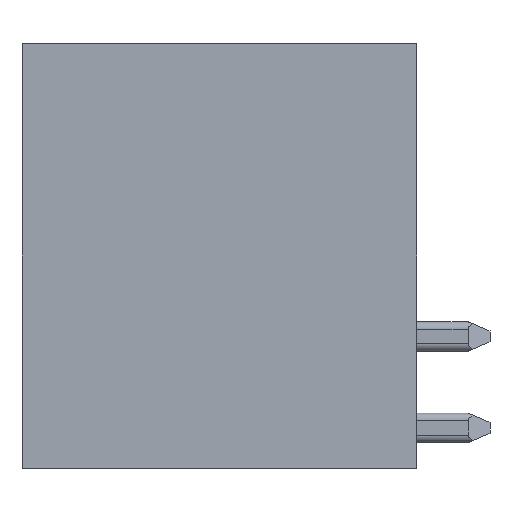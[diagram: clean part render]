
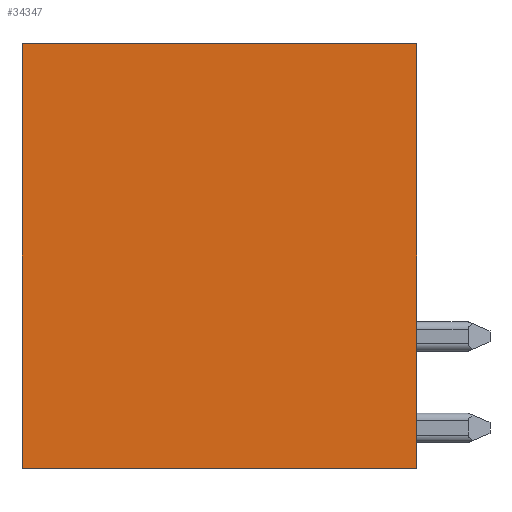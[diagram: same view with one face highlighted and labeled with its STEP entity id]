
A CAD part, left-side view. The second image highlights one B-rep face of the part: STEP entity #34347.
In plain terms, the highlighted planar face has unit normal (-1, 0, 0).
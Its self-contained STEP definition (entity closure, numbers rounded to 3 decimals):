
#3299=DIRECTION('',(0.,0.,1.));
#3300=VECTOR('',#3299,11.6);
#3301=CARTESIAN_POINT('',(17.1,10.8,-4.35));
#3302=LINE('',#3301,#3300);
#12826=DIRECTION('',(0.,1.,0.));
#12827=VECTOR('',#12826,10.8);
#12828=CARTESIAN_POINT('',(17.1,0.,7.25));
#12829=LINE('',#12828,#12827);
#12830=DIRECTION('',(0.,0.,1.));
#12831=VECTOR('',#12830,11.6);
#12832=CARTESIAN_POINT('',(17.1,0.,-4.35));
#12833=LINE('',#12832,#12831);
#12834=DIRECTION('',(0.,-1.,0.));
#12835=VECTOR('',#12834,10.8);
#12836=CARTESIAN_POINT('',(17.1,10.8,
-4.35));
#12837=LINE('',#12836,#12835);
#15743=CARTESIAN_POINT('',(17.1,10.8,
-4.35));
#15744=CARTESIAN_POINT('',(17.1,0.,-4.35));
#15745=VERTEX_POINT('',#15743);
#15746=VERTEX_POINT('',#15744);
#15819=CARTESIAN_POINT('',(17.1,0.,7.25));
#15820=VERTEX_POINT('',#15819);
#15821=CARTESIAN_POINT('',(17.1,10.8,7.25));
#15822=VERTEX_POINT('',#15821);
#34336=CARTESIAN_POINT('',(17.1,0.15,
0.525));
#34337=DIRECTION('',(1.,0.,0.));
#34338=DIRECTION('',(0.,0.,-1.));
#34339=AXIS2_PLACEMENT_3D('',#34336,#34337,#34338);
#34340=PLANE('',#34339);
#34341=ORIENTED_EDGE('',*,*,#21767,.F.);
#34342=ORIENTED_EDGE('',*,*,#34329,.F.);
#34343=ORIENTED_EDGE('',*,*,#21655,.F.);
#34344=ORIENTED_EDGE('',*,*,#21746,.T.);
#34345=EDGE_LOOP('',(#34341,#34342,#34343,#34344));
#34346=FACE_OUTER_BOUND('',#34345,.F.);
#34347=ADVANCED_FACE('',(#34346),#34340,.F.);
#21655=EDGE_CURVE('',#15745,#15746,#12837,.T.);
#21746=EDGE_CURVE('',#15745,#15822,#3302,.T.);
#21767=EDGE_CURVE('',#15820,#15822,#12829,.T.);
#34329=EDGE_CURVE('',#15746,#15820,#12833,.T.);
